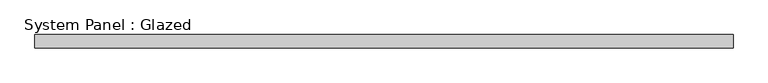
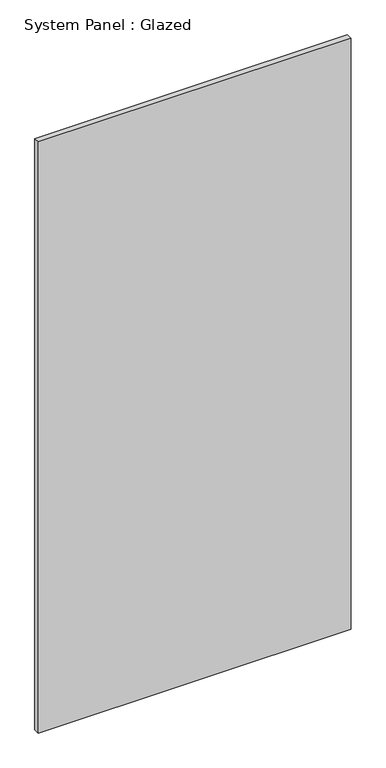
"""IFC4 building model written with IfcOpenShell, lengths in millimetres: plate geometry, System Panel : Glazed."""

from ifc_helpers import new_model, si_unit, origin, origin_with_axes, place, context, project, spatial, polyline, outline, extrude, source, transform, mapped, element, save


def system_panel_glazed_9b324d6a(model_context):
    return source(origin(), model_context, "Body", "SweptSolid", [
        extrude(outline(polyline([(669.0416667, 19.05), (-669.0416667, 19.05), (-669.0416667, 44.45), (669.0416667, 44.45), (669.0416667, 19.05)])), origin_with_axes(), (0.0, 0.0, 1.0), 2673.0),
    ])


if __name__ == "__main__":
    model = new_model("IFC4")
    model_context = context("Model", 3, world=origin())
    ifc_project = project(units=[si_unit("LENGTHUNIT", "METRE", prefix="MILLI")], contexts=[model_context])
    site = spatial("IfcSite", under=ifc_project)
    building = spatial("IfcBuilding", under=site)
    placement = place(None, origin())
    system_panel_glazed_shape = system_panel_glazed_9b324d6a(model_context)
    element("IfcPlate", 1, ObjectType="System Panel : Glazed", at=placement, inside=building, context=model_context, shape_type="MappedRepresentation", body=[
        mapped(system_panel_glazed_shape, transform((0.0, 0.0, 0.0), x_axis=(1.0, 0.0, 0.0), y_axis=(0.0, 1.0, 0.0), z_axis=(0.0, 0.0, 1.0))),
    ])
    save(model, "model.ifc")
